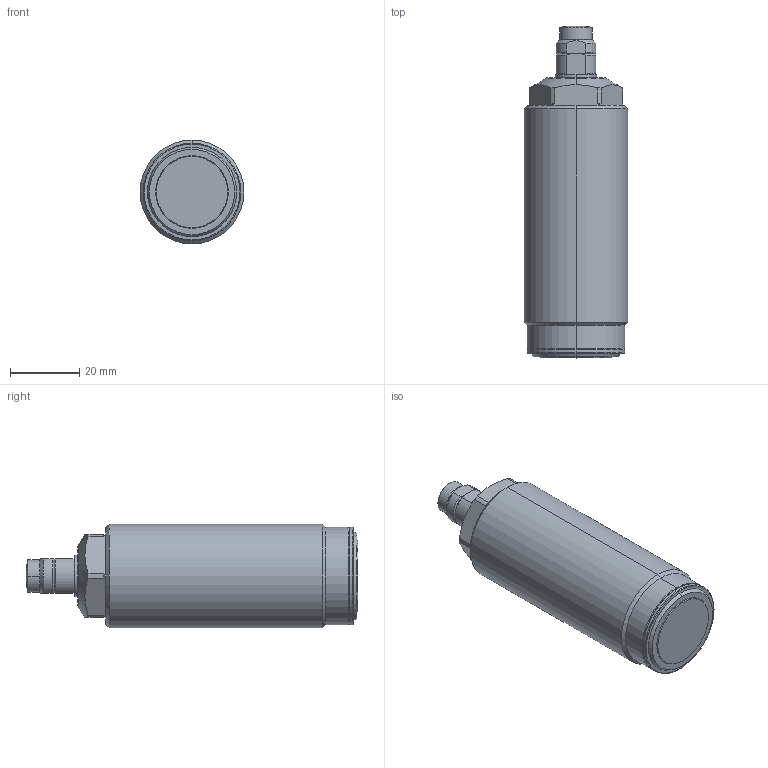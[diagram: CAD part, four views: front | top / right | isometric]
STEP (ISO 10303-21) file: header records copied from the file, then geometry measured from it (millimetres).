
FILE_DESCRIPTION(/* description */ (''),/* implementation_level */ '2;1');
FILE_NAME(/* name */ 'TSC03-QM.stp',/* time_stamp */ '2025-01-14T11:09:14+08:00',/* author */ (''),/* organization */ (''),/* preprocessor_version */ 'ST-DEVELOPER v16.7',/* originating_system */ 'SIEMENS PLM Software NX 12.0',/* authorisation */ '');
FILE_SCHEMA (('AUTOMOTIVE_DESIGN { 1 0 10303 214 3 1 1 1 }'));
Length unit declared in the file: millimetre
Products named in the file (8): XLD-M8SP_pad; XLD-M8SP_pin; XLD-M8_Oring; XLD-M8SP_contactbolt; TSC03-PQ-03; TSC03-PQ-01; XLDM8_-M; TSC03-Q_stp
Assembly tree (7 placements, depth 3):
  TSC03-Q_stp
    TSC03-PQ-01
    TSC03-PQ-03
    XLDM8_-M
      XLD-M8SP_contactbolt
      XLD-M8_Oring
      XLD-M8SP_pin
      XLD-M8SP_pad
Bounding box: 30 x 96 x 30 mm (x, y, z)
Volume: 55213.9 mm3; surface area: 11707.5 mm2
Topology: 6 solids, 6 shells, 165 faces, 378 edges, 231 vertices
Faces by surface type: cylinder 53, cone 41, plane 34, torus 31, sphere 6
Entity records: 5240 total; most frequent: CARTESIAN_POINT 1256, DIRECTION 868, ORIENTED_EDGE 756, EDGE_CURVE 378, AXIS2_PLACEMENT_3D 373, VERTEX_POINT 231, CIRCLE 200, EDGE_LOOP 181
